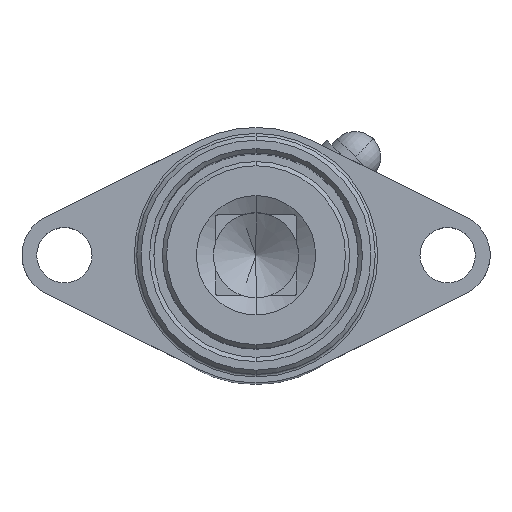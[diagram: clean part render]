
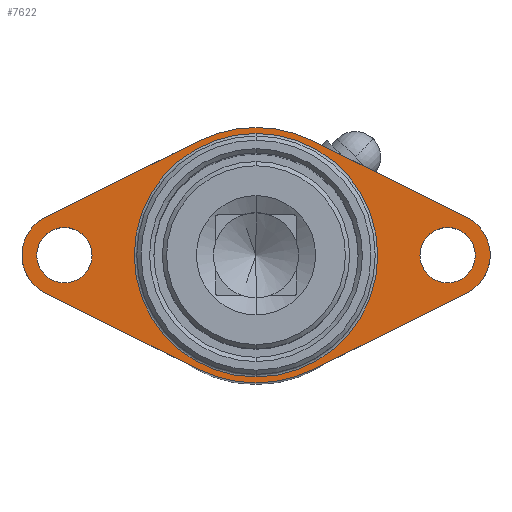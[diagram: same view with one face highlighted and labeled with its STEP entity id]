
A CAD part, top view. The second image highlights one B-rep face of the part: STEP entity #7622.
In plain terms, the highlighted planar face has unit normal (0, 0, 1).
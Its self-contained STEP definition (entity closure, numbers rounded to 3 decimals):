
#100 = EDGE_LOOP ( 'NONE', ( #4680, #4685, #4683, #4679, #4681, #5919, #5922, #5926, #5920, #5921 ) ) ;
#107 = EDGE_LOOP ( 'NONE', ( #4684, #4682 ) ) ;
#108 = EDGE_LOOP ( 'NONE', ( #5918, #5925 ) ) ;
#426 = CARTESIAN_POINT ( 'NONE',  ( 0., -14.3, -3. ) ) ;
#445 = CARTESIAN_POINT ( 'NONE',  ( 0., 14.3, -3. ) ) ;
#480 = CARTESIAN_POINT ( 'NONE',  ( 22.5, -3.25, -3. ) ) ;
#481 = CARTESIAN_POINT ( 'NONE',  ( 22.5, 3.25, -3. ) ) ;
#484 = CARTESIAN_POINT ( 'NONE',  ( -22.5, -3.25, -3. ) ) ;
#485 = CARTESIAN_POINT ( 'NONE',  ( -22.5, 3.25, -3. ) ) ;
#491 = CARTESIAN_POINT ( 'NONE',  ( 0., 15., -3. ) ) ;
#492 = CARTESIAN_POINT ( 'NONE',  ( 6.667, 13.437, -3. ) ) ;
#495 = CARTESIAN_POINT ( 'NONE',  ( 6.667, -13.437, -3. ) ) ;
#496 = CARTESIAN_POINT ( 'NONE',  ( 0., -15., -3. ) ) ;
#505 = CARTESIAN_POINT ( 'NONE',  ( 24.722, 4.479, -3. ) ) ;
#509 = CARTESIAN_POINT ( 'NONE',  ( -6.667, -13.437, -3. ) ) ;
#510 = CARTESIAN_POINT ( 'NONE',  ( 24.722, -4.479, -3. ) ) ;
#512 = CARTESIAN_POINT ( 'NONE',  ( -6.667, 13.437, -3. ) ) ;
#514 = CARTESIAN_POINT ( 'NONE',  ( -24.722, 4.479, -3. ) ) ;
#517 = CARTESIAN_POINT ( 'NONE',  ( -24.722, -4.479, -3. ) ) ;
#718 = AXIS2_PLACEMENT_3D ( 'NONE', #889, #890, #891 ) ;
#756 = AXIS2_PLACEMENT_3D ( 'NONE', #965, #966, #967 ) ;
#765 = AXIS2_PLACEMENT_3D ( 'NONE', #998, #999, #1000 ) ;
#766 = AXIS2_PLACEMENT_3D ( 'NONE', #1001, #1002, #1003 ) ;
#767 = AXIS2_PLACEMENT_3D ( 'NONE', #1006, #1007, #1008 ) ;
#768 = AXIS2_PLACEMENT_3D ( 'NONE', #1011, #1012, #1013 ) ;
#769 = AXIS2_PLACEMENT_3D ( 'NONE', #1019, #1020, #1021 ) ;
#781 = AXIS2_PLACEMENT_3D ( 'NONE', #1277, #1278, #1279 ) ;
#783 = AXIS2_PLACEMENT_3D ( 'NONE', #1288, #1289, #1290 ) ;
#787 = AXIS2_PLACEMENT_3D ( 'NONE', #1312, #1313, #1314 ) ;
#889 = CARTESIAN_POINT ( 'NONE',  ( 0., 0., -3. ) ) ;
#890 = DIRECTION ( 'NONE',  ( 0., 0., -1. ) ) ;
#891 = DIRECTION ( 'NONE',  ( 0., 1., 0. ) ) ;
#965 = CARTESIAN_POINT ( 'NONE',  ( 0., 0., -3. ) ) ;
#966 = DIRECTION ( 'NONE',  ( 0., 0., -1. ) ) ;
#967 = DIRECTION ( 'NONE',  ( 0., 1., 0. ) ) ;
#993 = DIRECTION ( 'NONE',  ( -0.896, 0.444, 0. ) ) ;
#997 = CARTESIAN_POINT ( 'NONE',  ( 24.722, 4.479, -3. ) ) ;
#998 = CARTESIAN_POINT ( 'NONE',  ( 0., 0., -3. ) ) ;
#999 = DIRECTION ( 'NONE',  ( 0., 0., -1. ) ) ;
#1000 = DIRECTION ( 'NONE',  ( 0., 1., 0. ) ) ;
#1001 = CARTESIAN_POINT ( 'NONE',  ( 22.5, 0., -3. ) ) ;
#1002 = DIRECTION ( 'NONE',  ( 0., 0., -1. ) ) ;
#1003 = DIRECTION ( 'NONE',  ( 0., 1., 0. ) ) ;
#1004 = DIRECTION ( 'NONE',  ( 0.896, -0.444, 0. ) ) ;
#1005 = CARTESIAN_POINT ( 'NONE',  ( -24.722, -4.479, -3. ) ) ;
#1006 = CARTESIAN_POINT ( 'NONE',  ( -22.5, 0., -3. ) ) ;
#1007 = DIRECTION ( 'NONE',  ( 0., 0., -1. ) ) ;
#1008 = DIRECTION ( 'NONE',  ( 0., 1., 0. ) ) ;
#1009 = CARTESIAN_POINT ( 'NONE',  ( 24.722, -4.479, -3. ) ) ;
#1010 = DIRECTION ( 'NONE',  ( -0.896, -0.444, 0. ) ) ;
#1011 = CARTESIAN_POINT ( 'NONE',  ( 22.5, 0., -3. ) ) ;
#1012 = DIRECTION ( 'NONE',  ( 0., 0., -1. ) ) ;
#1013 = DIRECTION ( 'NONE',  ( 0., 1., 0. ) ) ;
#1014 = CARTESIAN_POINT ( 'NONE',  ( -24.722, 4.479, -3. ) ) ;
#1016 = DIRECTION ( 'NONE',  ( 0.896, 0.444, 0. ) ) ;
#1019 = CARTESIAN_POINT ( 'NONE',  ( -22.5, 0., -3. ) ) ;
#1020 = DIRECTION ( 'NONE',  ( 0., 0., -1. ) ) ;
#1021 = DIRECTION ( 'NONE',  ( 0., 1., 0. ) ) ;
#1062 = CIRCLE ( 'NONE', #756, 15. ) ;
#1074 = CIRCLE ( 'NONE', #767, 5. ) ;
#1077 = CIRCLE ( 'NONE', #765, 14.3 ) ;
#1078 = CIRCLE ( 'NONE', #766, 3.25 ) ;
#1079 = LINE ( 'NONE', #1005, #1082 ) ;
#1080 = CIRCLE ( 'NONE', #769, 3.25 ) ;
#1081 = LINE ( 'NONE', #1009, #1084 ) ;
#1082 = VECTOR ( 'NONE', #993, 1000. ) ;
#1083 = CIRCLE ( 'NONE', #768, 5. ) ;
#1084 = VECTOR ( 'NONE', #1010, 1000. ) ;
#1085 = LINE ( 'NONE', #997, #1087 ) ;
#1086 = LINE ( 'NONE', #1014, #1089 ) ;
#1087 = VECTOR ( 'NONE', #1004, 1000. ) ;
#1089 = VECTOR ( 'NONE', #1016, 1000. ) ;
#1118 = CIRCLE ( 'NONE', #781, 3.25 ) ;
#1124 = CIRCLE ( 'NONE', #783, 3.25 ) ;
#1140 = CIRCLE ( 'NONE', #787, 15. ) ;
#1277 = CARTESIAN_POINT ( 'NONE',  ( 22.5, 0., -3. ) ) ;
#1278 = DIRECTION ( 'NONE',  ( 0., 0., -1. ) ) ;
#1279 = DIRECTION ( 'NONE',  ( 0., 1., 0. ) ) ;
#1288 = CARTESIAN_POINT ( 'NONE',  ( -22.5, 0., -3. ) ) ;
#1289 = DIRECTION ( 'NONE',  ( 0., 0., -1. ) ) ;
#1290 = DIRECTION ( 'NONE',  ( 0., 1., 0. ) ) ;
#1312 = CARTESIAN_POINT ( 'NONE',  ( 0., 0., -3. ) ) ;
#1313 = DIRECTION ( 'NONE',  ( 0., 0., -1. ) ) ;
#1314 = DIRECTION ( 'NONE',  ( 0., 1., 0. ) ) ;
#3771 = AXIS2_PLACEMENT_3D ( 'NONE', #3884, #3874, #3886 ) ;
#3874 = DIRECTION ( 'NONE',  ( 0., 0., -1. ) ) ;
#3882 = PLANE ( 'NONE',  #3771 ) ;
#3884 = CARTESIAN_POINT ( 'NONE',  ( -22.5, 0., -3. ) ) ;
#3886 = DIRECTION ( 'NONE',  ( 0., 1., 0. ) ) ;
#4246 = EDGE_CURVE ( 'NONE', #6001, #6002, #6932, .T. ) ;
#4274 = FACE_BOUND ( 'NONE', #108, .T. ) ;
#4275 = FACE_BOUND ( 'NONE', #6999, .T. ) ;
#4276 = FACE_OUTER_BOUND ( 'NONE', #100, .T. ) ;
#4279 = FACE_BOUND ( 'NONE', #107, .T. ) ;
#4574 = EDGE_CURVE ( 'NONE', #6002, #6015, #6967, .T. ) ;
#4635 = DIRECTION ( 'NONE',  ( 0., 1., 0. ) ) ;
#4642 = CARTESIAN_POINT ( 'NONE',  ( 0., 0., -3. ) ) ;
#4644 = DIRECTION ( 'NONE',  ( 0., 0., -1. ) ) ;
#4679 = ORIENTED_EDGE ( 'NONE', *, *, #4246, .F. ) ;
#4680 = ORIENTED_EDGE ( 'NONE', *, *, #6341, .F. ) ;
#4681 = ORIENTED_EDGE ( 'NONE', *, *, #6343, .F. ) ;
#4682 = ORIENTED_EDGE ( 'NONE', *, *, #6340, .T. ) ;
#4683 = ORIENTED_EDGE ( 'NONE', *, *, #4574, .F. ) ;
#4684 = ORIENTED_EDGE ( 'NONE', *, *, #6369, .T. ) ;
#4685 = ORIENTED_EDGE ( 'NONE', *, *, #6342, .F. ) ;
#4911 = AXIS2_PLACEMENT_3D ( 'NONE', #4642, #4644, #4635 ) ;
#4938 = AXIS2_PLACEMENT_3D ( 'NONE', #6594, #6595, #6596 ) ;
#5240 = CIRCLE ( 'NONE', #718, 14.3 ) ;
#5918 = ORIENTED_EDGE ( 'NONE', *, *, #6373, .T. ) ;
#5919 = ORIENTED_EDGE ( 'NONE', *, *, #6344, .F. ) ;
#5920 = ORIENTED_EDGE ( 'NONE', *, *, #6328, .F. ) ;
#5921 = ORIENTED_EDGE ( 'NONE', *, *, #6346, .F. ) ;
#5922 = ORIENTED_EDGE ( 'NONE', *, *, #6345, .F. ) ;
#5925 = ORIENTED_EDGE ( 'NONE', *, *, #6347, .T. ) ;
#5926 = ORIENTED_EDGE ( 'NONE', *, *, #6383, .F. ) ;
#5931 = ORIENTED_EDGE ( 'NONE', *, *, #6261, .T. ) ;
#5932 = ORIENTED_EDGE ( 'NONE', *, *, #6339, .T. ) ;
#5948 = VERTEX_POINT ( 'NONE', #426 ) ;
#5951 = VERTEX_POINT ( 'NONE', #445 ) ;
#5986 = VERTEX_POINT ( 'NONE', #480 ) ;
#5987 = VERTEX_POINT ( 'NONE', #481 ) ;
#5990 = VERTEX_POINT ( 'NONE', #484 ) ;
#5991 = VERTEX_POINT ( 'NONE', #485 ) ;
#5997 = VERTEX_POINT ( 'NONE', #491 ) ;
#5998 = VERTEX_POINT ( 'NONE', #492 ) ;
#6001 = VERTEX_POINT ( 'NONE', #495 ) ;
#6002 = VERTEX_POINT ( 'NONE', #496 ) ;
#6011 = VERTEX_POINT ( 'NONE', #505 ) ;
#6015 = VERTEX_POINT ( 'NONE', #509 ) ;
#6016 = VERTEX_POINT ( 'NONE', #510 ) ;
#6018 = VERTEX_POINT ( 'NONE', #512 ) ;
#6020 = VERTEX_POINT ( 'NONE', #514 ) ;
#6023 = VERTEX_POINT ( 'NONE', #517 ) ;
#6261 = EDGE_CURVE ( 'NONE', #5948, #5951, #5240, .T. ) ;
#6328 = EDGE_CURVE ( 'NONE', #6018, #5997, #1062, .T. ) ;
#6339 = EDGE_CURVE ( 'NONE', #5951, #5948, #1077, .T. ) ;
#6340 = EDGE_CURVE ( 'NONE', #5987, #5986, #1078, .T. ) ;
#6341 = EDGE_CURVE ( 'NONE', #6023, #6020, #1074, .T. ) ;
#6342 = EDGE_CURVE ( 'NONE', #6015, #6023, #1079, .T. ) ;
#6343 = EDGE_CURVE ( 'NONE', #6016, #6001, #1081, .T. ) ;
#6344 = EDGE_CURVE ( 'NONE', #6011, #6016, #1083, .T. ) ;
#6345 = EDGE_CURVE ( 'NONE', #5998, #6011, #1085, .T. ) ;
#6346 = EDGE_CURVE ( 'NONE', #6020, #6018, #1086, .T. ) ;
#6347 = EDGE_CURVE ( 'NONE', #5991, #5990, #1080, .T. ) ;
#6369 = EDGE_CURVE ( 'NONE', #5986, #5987, #1118, .T. ) ;
#6373 = EDGE_CURVE ( 'NONE', #5990, #5991, #1124, .T. ) ;
#6383 = EDGE_CURVE ( 'NONE', #5997, #5998, #1140, .T. ) ;
#6594 = CARTESIAN_POINT ( 'NONE',  ( 0., 0., -3. ) ) ;
#6595 = DIRECTION ( 'NONE',  ( 0., 0., -1. ) ) ;
#6596 = DIRECTION ( 'NONE',  ( 0., 1., 0. ) ) ;
#6932 = CIRCLE ( 'NONE', #4911, 15. ) ;
#6967 = CIRCLE ( 'NONE', #4938, 15. ) ;
#6999 = EDGE_LOOP ( 'NONE', ( #5932, #5931 ) ) ;
#7622 = ADVANCED_FACE ( 'NONE', ( #4275, #4279, #4276, #4274 ), #3882, .F. ) ;
